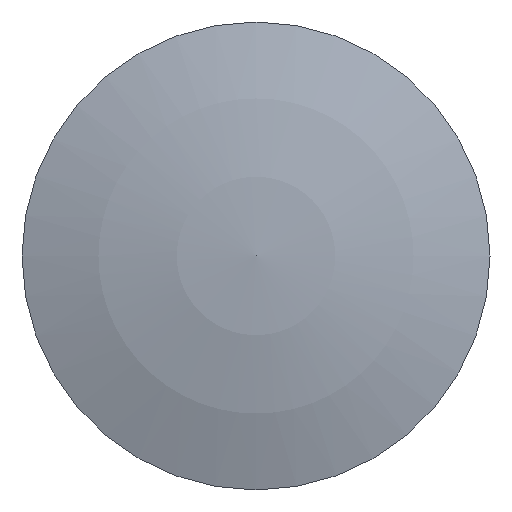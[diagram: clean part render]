
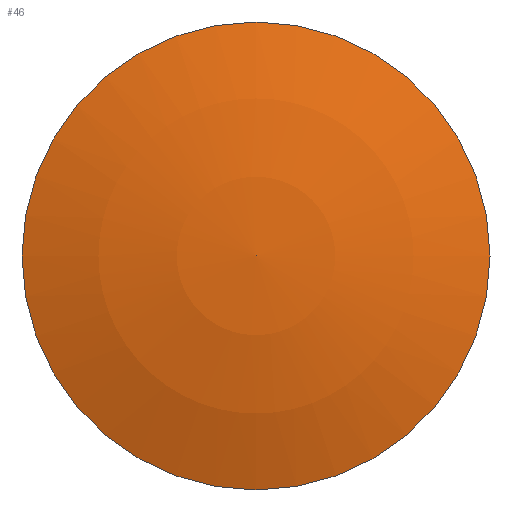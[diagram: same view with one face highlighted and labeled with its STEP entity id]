
A CAD part, top view. The second image highlights one B-rep face of the part: STEP entity #46.
In plain terms, the highlighted spherical face has radius 20 mm.
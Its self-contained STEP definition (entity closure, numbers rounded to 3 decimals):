
#46=ADVANCED_FACE('',(#92),#93,.T.);
#92=FACE_OUTER_BOUND('',#129,.T.);
#93=SPHERICAL_SURFACE('',#130,20.);
#129=EDGE_LOOP('',(#174));
#130=AXIS2_PLACEMENT_3D('',#175,#176,#177);
#174=ORIENTED_EDGE('',*,*,#180,.F.);
#175=CARTESIAN_POINT('',(0.,0.,-18.948));
#176=DIRECTION('',(0.0,0.,-1.0));
#177=DIRECTION('',(1.0,0.0,0.0));
#180=EDGE_CURVE('',#196,#196,#197,.T.);
#196=VERTEX_POINT('',#218);
#197=CIRCLE('',#219,6.4);
#218=CARTESIAN_POINT('',(0.0,6.4,0.));
#219=AXIS2_PLACEMENT_3D('',#240,#241,#242);
#240=CARTESIAN_POINT('',(0.0,0.,0.));
#241=DIRECTION('',(0.0,0.,-1.0));
#242=DIRECTION('',(0.0,1.0,0.));
